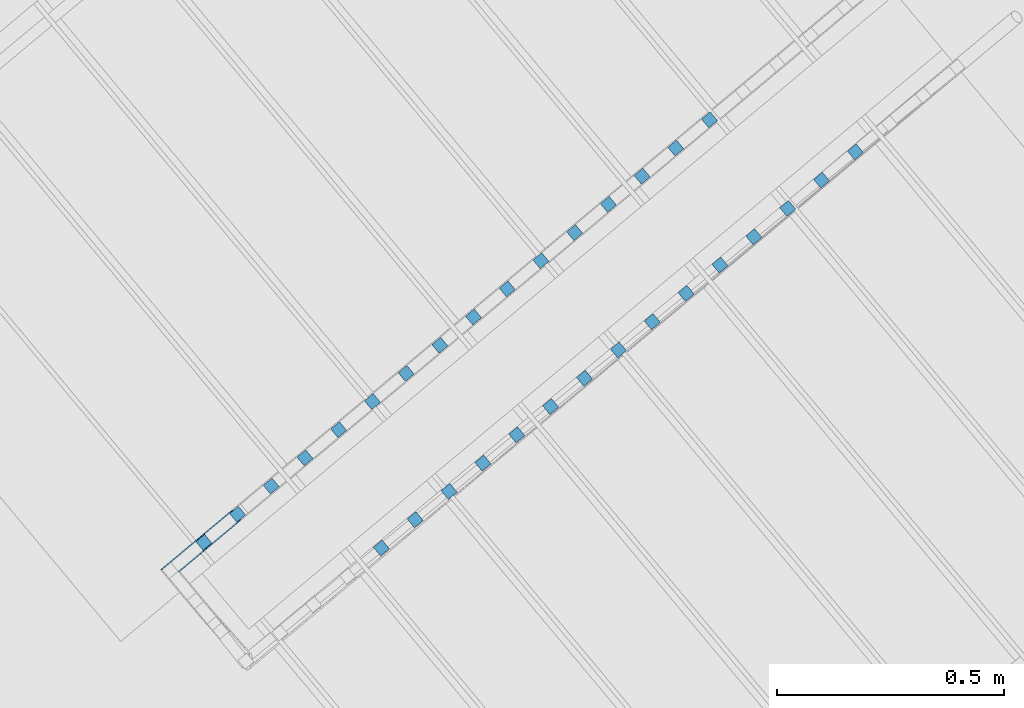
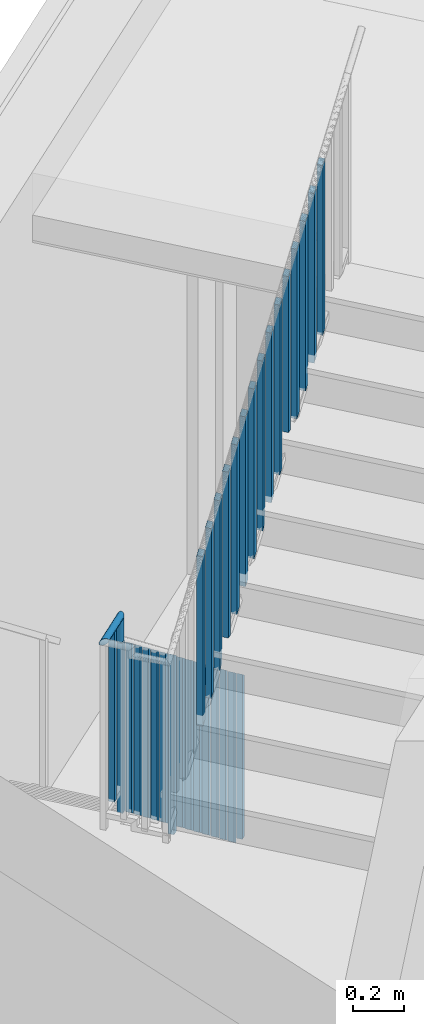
# One storey, part 15 of 17: 32 building element parts, 1 element without a shape of its own.
"""IFC4 building model written with IfcOpenShell, lengths in metres."""

from ifc_helpers import new_model, entity, si_unit, converted_unit, derived_unit, direction, frame, origin_with_axes, place, context, subcontext, project, spatial, polygons, material, type_object, element, aggregate, save


model = new_model("IFC4")

# Units and contexts
model_context = context("Model", 3, precision=1e-05, world=origin_with_axes(), true_north=direction((0.0, 1.0)))
body_context = subcontext(model_context, "Body", "Model", "MODEL_VIEW")
ifc_project = project(units=[si_unit("LENGTHUNIT", "METRE"), si_unit("AREAUNIT", "SQUARE_METRE"), si_unit("VOLUMEUNIT", "CUBIC_METRE"), converted_unit("PLANEANGLEUNIT", "DEGREE", entity("IfcPlaneAngleMeasure", 0.0174532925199), si_unit("PLANEANGLEUNIT", "RADIAN"), dimensions=[0, 0, 0, 0, 0, 0, 0]), converted_unit("TIMEUNIT", "Year", entity("IfcTimeMeasure", 31556926.0), si_unit("TIMEUNIT", "SECOND"), dimensions=[0, 0, 1, 0, 0, 0, 0]), si_unit("MASSUNIT", "GRAM", prefix="KILO"), si_unit("THERMODYNAMICTEMPERATUREUNIT", "DEGREE_CELSIUS"), si_unit("LUMINOUSINTENSITYUNIT", "LUMEN"), si_unit("ENERGYUNIT", "JOULE", prefix="MEGA"), derived_unit("THERMALCONDUCTANCEUNIT", [(si_unit("POWERUNIT", "WATT"), 1), (si_unit("LENGTHUNIT", "METRE"), -1), (si_unit("THERMODYNAMICTEMPERATUREUNIT", "KELVIN"), -1)]), derived_unit("SPECIFICHEATCAPACITYUNIT", [(si_unit("ENERGYUNIT", "JOULE"), 1), (si_unit("MASSUNIT", "GRAM", prefix="KILO"), -1), (si_unit("THERMODYNAMICTEMPERATUREUNIT", "KELVIN"), -1)]), derived_unit("MASSDENSITYUNIT", [(si_unit("MASSUNIT", "GRAM", prefix="KILO"), 1), (si_unit("VOLUMEUNIT", "CUBIC_METRE"), -1)])], contexts=[model_context])

# Site, building, storey
site_placement = place(None, frame((-0.00153261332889, -0.00661245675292, 0.0), z_axis=(0.0, 0.0, 1.0), x_axis=(1.0, 0.0, 0.0)))
site = spatial("IfcSite", under=ifc_project, at=site_placement, Name="Site", CompositionType="ELEMENT")
building_placement = place(site_placement, origin_with_axes())
building = spatial("IfcBuilding", under=site, at=building_placement, Name="Building", CompositionType="ELEMENT")
storey_placement = place(building_placement, frame((0.0, 0.0, -3.3), z_axis=(0.0, 0.0, 1.0), x_axis=(1.0, 0.0, 0.0)))
storey = spatial("IfcBuildingStorey", under=building, at=storey_placement, Name="UG1", CompositionType="ELEMENT", Elevation=-3.3)

# Railing, building element parts
railing_type = type_object("IfcRailingType", Name="Geländerart", PredefinedType="NOTDEFINED")
railing_placement = place(storey_placement, frame((-0.202679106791, 23.9992163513, 0.0), z_axis=(0.0, 0.0, 1.0), x_axis=(1.0, 0.0, 0.0)))
railing = element("IfcRailing", 1, at=railing_placement, inside=storey, type_object=railing_type, Name="Geländer - 001", PredefinedType="NOTDEFINED")
ifc_material = material(Name="BEKLEIDUNG")
building_element_part_1_placement = place(railing_placement, origin_with_axes())
building_element_part_1 = element("IfcBuildingElementPart", 2, at=building_element_part_1_placement, material=ifc_material, Name="BEKLEIDUNG", PredefinedType="NOTDEFINED", context=body_context, shape_type="Tessellation", body=[
    polygons([(-1.85741004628, -1.50627841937, 2.54264036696), (-1.85555729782, -1.50443347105, 2.54391411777), (-1.85555729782, -1.50443347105, 2.65427138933), (-1.85741004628, -1.50627841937, 2.65166666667), (-1.85955501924, -1.50777361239, 2.54136661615), (-1.86192704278, -1.50887361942, 2.54013156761), (-1.86445404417, -1.5095450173, 2.53897274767), (-1.86705924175, -1.50976740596, 2.53792536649), (-1.86966347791, -1.50953402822, 2.53702124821), (-1.87218762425, -1.50885197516, 2.53628786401), (-1.87455498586, -1.50774197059, 2.5357474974), (-1.87669363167, -1.50623774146, 2.53541656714), (-1.87853857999, -1.50438499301, 2.53530512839), (-1.880033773, -1.50224002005, 2.53541656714), (-1.88113378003, -1.49986799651, 2.5357474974), (-1.88180517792, -1.49734099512, 2.53628786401), (-1.88202756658, -1.49473579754, 2.53702124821), (-1.88179418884, -1.49213156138, 2.53792536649), (-1.88111213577, -1.48960741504, 2.53897274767), (-1.88000213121, -1.48724005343, 2.54013156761), (-1.87849790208, -1.48510140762, 2.54136661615), (-1.87664515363, -1.4832564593, 2.54264036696), (-1.87450018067, -1.48176126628, 2.54391411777), (-1.87212815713, -1.48066125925, 2.5451491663), (-1.86960115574, -1.47998986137, 2.54630798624), (-1.86699595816, -1.47976747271, 2.54735536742), (-1.864391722, -1.48000085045, 2.5482594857), (-1.86186757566, -1.48068290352, 2.5489928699), (-1.85950021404, -1.48179290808, 2.54953323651), (-1.85736156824, -1.48329713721, 2.54986416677), (-1.85551661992, -1.48514988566, 2.54997560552), (-1.8540214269, -1.48729485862, 2.54986416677), (-1.85292141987, -1.48966688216, 2.54953323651), (-1.85225002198, -1.49219388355, 2.5489928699), (-1.85202763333, -1.49479908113, 2.5482594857), (-1.85226101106, -1.49740331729, 2.54735536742), (-1.85294306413, -1.49992746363, 2.54630798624), (-1.8540530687, -1.50229482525, 2.5451491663), (-1.8540530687, -1.50229482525, 2.65679696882), (-1.98818822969, -1.61524811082, 2.65427138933), (-1.98786723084, -1.61527686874, 2.65166666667), (-1.85955501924, -1.50777361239, 2.649061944), (-1.86192704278, -1.50887361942, 2.64653636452), (-1.86445404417, -1.5095450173, 2.64416666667), (-1.86705924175, -1.50976740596, 2.64202485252), (-1.86966347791, -1.50953402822, 2.64017600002), (-1.87218762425, -1.50885197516, 2.63867628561), (-1.87455498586, -1.50774197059, 2.63757127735), (-1.87669363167, -1.50623774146, 2.63689455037), (-1.87853857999, -1.50438499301, 2.63666666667), (-1.880033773, -1.50224002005, 2.63689455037), (-1.88113378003, -1.49986799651, 2.63757127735), (-1.88180517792, -1.49734099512, 2.63867628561), (-1.88202756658, -1.49473579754, 2.64017600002), (-1.88179418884, -1.49213156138, 2.64202485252), (-1.88111213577, -1.48960741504, 2.64416666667), (-1.88000213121, -1.48724005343, 2.64653636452), (-1.87849790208, -1.48510140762, 2.649061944), (-1.87664515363, -1.4832564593, 2.65166666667), (-1.87450018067, -1.48176126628, 2.65427138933), (-1.87212815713, -1.48066125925, 2.65679696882), (-1.86960115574, -1.47998986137, 2.65916666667), (-1.86699595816, -1.47976747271, 2.66130848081), (-1.864391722, -1.48000085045, 2.66315733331), (-1.86186757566, -1.48068290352, 2.66465704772), (-1.85950021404, -1.48179290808, 2.66576205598), (-1.85736156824, -1.48329713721, 2.66643878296), (-1.85551661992, -1.48514988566, 2.66666666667), (-1.8540214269, -1.48729485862, 2.66643878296), (-1.85292141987, -1.48966688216, 2.66576205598), (-1.85225002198, -1.49219388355, 2.66465704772), (-1.85202763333, -1.49479908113, 2.66315733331), (-1.85226101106, -1.49740331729, 2.66130848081), (-1.85294306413, -1.49992746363, 2.65916666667), (-1.98914147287, -1.61516271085, 2.65679696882), (-1.99069799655, -1.61502326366, 2.65916666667), (-1.99281050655, -1.61483400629, 2.66130848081), (-1.99541481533, -1.61460068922, 2.66315733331), (-1.99843179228, -1.61433040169, 2.66465704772), (-2.00176976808, -1.61403135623, 2.66576205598), (-2.00532732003, -1.61371263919, 2.66643878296), (-2.00899635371, -1.61338393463, 2.66666666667), (-2.01266538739, -1.61305523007, 2.66643878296), (-2.01622293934, -1.61273651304, 2.66576205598), (-2.01956091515, -1.61243746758, 2.66465704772), (-2.0225778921, -1.61216718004, 2.66315733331), (-2.02518220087, -1.61193386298, 2.66130848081), (-2.02729471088, -1.61174460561, 2.65916666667), (-2.02885123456, -1.61160515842, 2.65679696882), (-2.02980447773, -1.61151975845, 2.65427138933), (-2.03012547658, -1.61149100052, 2.65166666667), (-2.02980447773, -1.61151975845, 2.649061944), (-2.02885123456, -1.61160515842, 2.64653636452), (-2.02729471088, -1.61174460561, 2.64416666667), (-2.02518220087, -1.61193386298, 2.64202485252), (-2.0225778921, -1.61216718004, 2.64017600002), (-2.01956091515, -1.61243746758, 2.63867628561), (-2.01622293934, -1.61273651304, 2.63757127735), (-2.01266538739, -1.61305523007, 2.63689455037), (-2.00899635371, -1.61338393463, 2.63666666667), (-2.00532732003, -1.61371263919, 2.63689455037), (-2.00176976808, -1.61403135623, 2.63757127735), (-1.99843179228, -1.61433040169, 2.63867628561), (-1.99541481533, -1.61460068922, 2.64017600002), (-1.99281050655, -1.61483400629, 2.64202485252), (-1.99069799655, -1.61502326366, 2.64416666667), (-1.98914147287, -1.61516271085, 2.64653636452), (-1.98818822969, -1.61524811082, 2.649061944)], [[[1, 2, 3, 4]], [[1, 5, 6, 7, 8, 9, 10, 11, 12, 13, 14, 15, 16, 17, 18, 19, 20, 21, 22, 23, 24, 25, 26, 27, 28, 29, 30, 31, 32, 33, 34, 35, 36, 37, 38, 2]], [[2, 38, 39, 3]], [[4, 3, 40, 41]], [[5, 1, 4, 42]], [[6, 5, 42, 43]], [[7, 6, 43, 44]], [[8, 7, 44, 45]], [[9, 8, 45, 46]], [[10, 9, 46, 47]], [[11, 10, 47, 48]], [[12, 11, 48, 49]], [[13, 12, 49, 50]], [[14, 13, 50, 51]], [[15, 14, 51, 52]], [[16, 15, 52, 53]], [[17, 16, 53, 54]], [[18, 17, 54, 55]], [[19, 18, 55, 56]], [[20, 19, 56, 57]], [[21, 20, 57, 58]], [[22, 21, 58, 59]], [[23, 22, 59, 60]], [[24, 23, 60, 61]], [[25, 24, 61, 62]], [[26, 25, 62, 63]], [[27, 26, 63, 64]], [[28, 27, 64, 65]], [[29, 28, 65, 66]], [[30, 29, 66, 67]], [[31, 30, 67, 68]], [[32, 31, 68, 69]], [[33, 32, 69, 70]], [[34, 33, 70, 71]], [[35, 34, 71, 72]], [[36, 35, 72, 73]], [[37, 36, 73, 74]], [[38, 37, 74, 39]], [[3, 39, 75, 40]], [[41, 40, 75, 76, 77, 78, 79, 80, 81, 82, 83, 84, 85, 86, 87, 88, 89, 90, 91, 92, 93, 94, 95, 96, 97, 98, 99, 100, 101, 102, 103, 104, 105, 106, 107, 108]], [[42, 4, 41, 108]], [[43, 42, 108, 107]], [[44, 43, 107, 106]], [[45, 44, 106, 105]], [[46, 45, 105, 104]], [[47, 46, 104, 103]], [[48, 47, 103, 102]], [[49, 48, 102, 101]], [[50, 49, 101, 100]], [[51, 50, 100, 99]], [[52, 51, 99, 98]], [[53, 52, 98, 97]], [[54, 53, 97, 96]], [[55, 54, 96, 95]], [[56, 55, 95, 94]], [[57, 56, 94, 93]], [[58, 57, 93, 92]], [[59, 58, 92, 91]], [[60, 59, 91, 90]], [[61, 60, 90, 89]], [[62, 61, 89, 88]], [[63, 62, 88, 87]], [[64, 63, 87, 86]], [[65, 64, 86, 85]], [[66, 65, 85, 84]], [[67, 66, 84, 83]], [[68, 67, 83, 82]], [[69, 68, 82, 81]], [[70, 69, 81, 80]], [[71, 70, 80, 79]], [[72, 71, 79, 78]], [[73, 72, 78, 77]], [[74, 73, 77, 76]], [[39, 74, 76, 75]]], closed=True),
])
building_element_part_2_placement = place(railing_placement, origin_with_axes())
building_element_part_2 = element("IfcBuildingElementPart", 3, at=building_element_part_2_placement, material=ifc_material, Name="BEKLEIDUNG", PredefinedType="NOTDEFINED", context=body_context, shape_type="Tessellation", body=[
    polygons([(-0.839224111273, -0.619737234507, 0.706666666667), (-0.823194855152, -0.638922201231, 0.706666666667), (-0.823194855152, -0.638922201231, 1.49157986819), (-0.839224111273, -0.619737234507, 1.49157986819), (-0.820039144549, -0.603707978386, 0.706666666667), (-0.804009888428, -0.62289294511, 0.706666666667), (-0.804009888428, -0.62289294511, 1.47213102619), (-0.820039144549, -0.603707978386, 1.47213102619)], [[[1, 2, 3, 4]], [[1, 5, 6, 2]], [[2, 6, 7, 3]], [[4, 3, 7, 8]], [[5, 1, 4, 8]], [[6, 5, 8, 7]]], closed=True),
])
building_element_part_3_placement = place(railing_placement, origin_with_axes())
building_element_part_3 = element("IfcBuildingElementPart", 4, at=building_element_part_3_placement, material=ifc_material, Name="BEKLEIDUNG", PredefinedType="NOTDEFINED", context=body_context, shape_type="Tessellation", body=[
    polygons([(-0.91343532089, -0.681741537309, 0.756811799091), (-0.897406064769, -0.700926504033, 0.756811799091), (-0.897406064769, -0.700926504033, 1.56431179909), (-0.91343532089, -0.681741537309, 1.56431179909), (-0.894250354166, -0.665712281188, 0.737362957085), (-0.878221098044, -0.684897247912, 0.737362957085), (-0.878221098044, -0.684897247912, 1.54486295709), (-0.894250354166, -0.665712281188, 1.54486295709)], [[[1, 2, 3, 4]], [[1, 5, 6, 2]], [[2, 6, 7, 3]], [[4, 3, 7, 8]], [[5, 1, 4, 8]], [[6, 5, 8, 7]]], closed=True),
])
building_element_part_4_placement = place(railing_placement, origin_with_axes())
building_element_part_4 = element("IfcBuildingElementPart", 5, at=building_element_part_4_placement, material=ifc_material, Name="BEKLEIDUNG", PredefinedType="NOTDEFINED", context=body_context, shape_type="Tessellation", body=[
    polygons([(-0.987646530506, -0.74374584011, 0.83204372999), (-0.971617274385, -0.762930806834, 0.83204372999), (-0.971617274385, -0.762930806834, 1.63954372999), (-0.987646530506, -0.74374584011, 1.63954372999), (-0.968461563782, -0.727716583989, 0.812594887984), (-0.952432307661, -0.746901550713, 0.812594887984), (-0.952432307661, -0.746901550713, 1.62009488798), (-0.968461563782, -0.727716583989, 1.62009488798)], [[[1, 2, 3, 4]], [[1, 5, 6, 2]], [[2, 6, 7, 3]], [[4, 3, 7, 8]], [[5, 1, 4, 8]], [[6, 5, 8, 7]]], closed=True),
])
building_element_part_5_placement = place(railing_placement, origin_with_axes())
building_element_part_5 = element("IfcBuildingElementPart", 6, at=building_element_part_5_placement, material=ifc_material, Name="BEKLEIDUNG", PredefinedType="NOTDEFINED", context=body_context, shape_type="Tessellation", body=[
    polygons([(-1.06185774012, -0.805750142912, 0.907275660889), (-1.045828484, -0.824935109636, 0.907275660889), (-1.045828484, -0.824935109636, 1.71477566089), (-1.06185774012, -0.805750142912, 1.71477566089), (-1.0426727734, -0.789720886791, 0.887826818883), (-1.02664351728, -0.808905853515, 0.887826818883), (-1.02664351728, -0.808905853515, 1.69532681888), (-1.0426727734, -0.789720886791, 1.69532681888)], [[[1, 2, 3, 4]], [[1, 5, 6, 2]], [[2, 6, 7, 3]], [[4, 3, 7, 8]], [[5, 1, 4, 8]], [[6, 5, 8, 7]]], closed=True),
])
building_element_part_6_placement = place(railing_placement, origin_with_axes())
building_element_part_6 = element("IfcBuildingElementPart", 7, at=building_element_part_6_placement, material=ifc_material, Name="BEKLEIDUNG", PredefinedType="NOTDEFINED", context=body_context, shape_type="Tessellation", body=[
    polygons([(-1.13606894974, -0.867754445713, 0.982507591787), (-1.12003969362, -0.886939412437, 0.982507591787), (-1.12003969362, -0.886939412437, 1.79000759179), (-1.13606894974, -0.867754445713, 1.79000759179), (-1.11688398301, -0.851725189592, 0.963058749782), (-1.10085472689, -0.870910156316, 0.963058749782), (-1.10085472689, -0.870910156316, 1.77055874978), (-1.11688398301, -0.851725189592, 1.77055874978)], [[[1, 2, 3, 4]], [[1, 5, 6, 2]], [[2, 6, 7, 3]], [[4, 3, 7, 8]], [[5, 1, 4, 8]], [[6, 5, 8, 7]]], closed=True),
])
building_element_part_7_placement = place(railing_placement, origin_with_axes())
building_element_part_7 = element("IfcBuildingElementPart", 8, at=building_element_part_7_placement, material=ifc_material, Name="BEKLEIDUNG", PredefinedType="NOTDEFINED", context=body_context, shape_type="Tessellation", body=[
    polygons([(-1.21028015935, -0.929758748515, 1.05773952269), (-1.19425090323, -0.948943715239, 1.05773952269), (-1.19425090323, -0.948943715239, 1.86523952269), (-1.21028015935, -0.929758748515, 1.86523952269), (-1.19109519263, -0.913729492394, 1.03829068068), (-1.17506593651, -0.932914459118, 1.03829068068), (-1.17506593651, -0.932914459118, 1.84579068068), (-1.19109519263, -0.913729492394, 1.84579068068)], [[[1, 2, 3, 4]], [[1, 5, 6, 2]], [[2, 6, 7, 3]], [[4, 3, 7, 8]], [[5, 1, 4, 8]], [[6, 5, 8, 7]]], closed=True),
])
building_element_part_8_placement = place(railing_placement, origin_with_axes())
building_element_part_8 = element("IfcBuildingElementPart", 9, at=building_element_part_8_placement, material=ifc_material, Name="BEKLEIDUNG", PredefinedType="NOTDEFINED", context=body_context, shape_type="Tessellation", body=[
    polygons([(-1.28449136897, -0.991763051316, 1.13297145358), (-1.26846211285, -1.01094801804, 1.13297145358), (-1.26846211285, -1.01094801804, 1.94047145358), (-1.28449136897, -0.991763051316, 1.94047145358), (-1.26530640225, -0.975733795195, 1.11352261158), (-1.24927714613, -0.994918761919, 1.11352261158), (-1.24927714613, -0.994918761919, 1.92102261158), (-1.26530640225, -0.975733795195, 1.92102261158)], [[[1, 2, 3, 4]], [[1, 5, 6, 2]], [[2, 6, 7, 3]], [[4, 3, 7, 8]], [[5, 1, 4, 8]], [[6, 5, 8, 7]]], closed=True),
])
building_element_part_9_placement = place(railing_placement, origin_with_axes())
building_element_part_9 = element("IfcBuildingElementPart", 10, at=building_element_part_9_placement, material=ifc_material, Name="BEKLEIDUNG", PredefinedType="NOTDEFINED", context=body_context, shape_type="Tessellation", body=[
    polygons([(-1.35870257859, -1.05376735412, 1.20820338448), (-1.34267332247, -1.07295232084, 1.20820338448), (-1.34267332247, -1.07295232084, 2.01570338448), (-1.35870257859, -1.05376735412, 2.01570338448), (-1.33951761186, -1.037738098, 1.18875454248), (-1.32348835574, -1.05692306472, 1.18875454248), (-1.32348835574, -1.05692306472, 1.99625454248), (-1.33951761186, -1.037738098, 1.99625454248)], [[[1, 2, 3, 4]], [[1, 5, 6, 2]], [[2, 6, 7, 3]], [[4, 3, 7, 8]], [[5, 1, 4, 8]], [[6, 5, 8, 7]]], closed=True),
])
building_element_part_10_placement = place(railing_placement, origin_with_axes())
building_element_part_10 = element("IfcBuildingElementPart", 11, at=building_element_part_10_placement, material=ifc_material, Name="BEKLEIDUNG", PredefinedType="NOTDEFINED", context=body_context, shape_type="Tessellation", body=[
    polygons([(-1.4329137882, -1.11577165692, 1.23666666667), (-1.41688453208, -1.13495662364, 1.23666666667), (-1.41688453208, -1.13495662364, 2.09343531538), (-1.4329137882, -1.11577165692, 2.09343531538), (-1.41372882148, -1.0997424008, 1.23666666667), (-1.39769956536, -1.11892736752, 1.23666666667), (-1.39769956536, -1.11892736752, 2.07398647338), (-1.41372882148, -1.0997424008, 2.07398647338)], [[[1, 2, 3, 4]], [[1, 5, 6, 2]], [[2, 6, 7, 3]], [[4, 3, 7, 8]], [[5, 1, 4, 8]], [[6, 5, 8, 7]]], closed=True),
])
building_element_part_11_placement = place(railing_placement, origin_with_axes())
building_element_part_11 = element("IfcBuildingElementPart", 12, at=building_element_part_11_placement, material=ifc_material, Name="BEKLEIDUNG", PredefinedType="NOTDEFINED", context=body_context, shape_type="Tessellation", body=[
    polygons([(-1.50712499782, -1.17777595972, 1.35866724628), (-1.4910957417, -1.19696092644, 1.35866724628), (-1.4910957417, -1.19696092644, 2.16616724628), (-1.50712499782, -1.17777595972, 2.16616724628), (-1.4879400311, -1.1617467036, 1.33921840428), (-1.47191077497, -1.18093167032, 1.33921840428), (-1.47191077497, -1.18093167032, 2.14671840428), (-1.4879400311, -1.1617467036, 2.14671840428)], [[[1, 2, 3, 4]], [[1, 5, 6, 2]], [[2, 6, 7, 3]], [[4, 3, 7, 8]], [[5, 1, 4, 8]], [[6, 5, 8, 7]]], closed=True),
])
building_element_part_12_placement = place(railing_placement, origin_with_axes())
building_element_part_12 = element("IfcBuildingElementPart", 13, at=building_element_part_12_placement, material=ifc_material, Name="BEKLEIDUNG", PredefinedType="NOTDEFINED", context=body_context, shape_type="Tessellation", body=[
    polygons([(-1.58133620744, -1.23978026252, 1.43389917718), (-1.56530695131, -1.25896522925, 1.43389917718), (-1.56530695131, -1.25896522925, 2.24139917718), (-1.58133620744, -1.23978026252, 2.24139917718), (-1.56215124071, -1.2237510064, 1.41445033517), (-1.54612198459, -1.24293597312, 1.41445033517), (-1.54612198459, -1.24293597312, 2.22195033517), (-1.56215124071, -1.2237510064, 2.22195033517)], [[[1, 2, 3, 4]], [[1, 5, 6, 2]], [[2, 6, 7, 3]], [[4, 3, 7, 8]], [[5, 1, 4, 8]], [[6, 5, 8, 7]]], closed=True),
])
building_element_part_13_placement = place(railing_placement, origin_with_axes())
building_element_part_13 = element("IfcBuildingElementPart", 14, at=building_element_part_13_placement, material=ifc_material, Name="BEKLEIDUNG", PredefinedType="NOTDEFINED", context=body_context, shape_type="Tessellation", body=[
    polygons([(-1.65554741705, -1.30178456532, 1.50913110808), (-1.63951816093, -1.32096953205, 1.50913110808), (-1.63951816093, -1.32096953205, 2.31663110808), (-1.65554741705, -1.30178456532, 2.31663110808), (-1.63636245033, -1.2857553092, 1.48968226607), (-1.62033319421, -1.30494027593, 1.48968226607), (-1.62033319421, -1.30494027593, 2.29718226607), (-1.63636245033, -1.2857553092, 2.29718226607)], [[[1, 2, 3, 4]], [[1, 5, 6, 2]], [[2, 6, 7, 3]], [[4, 3, 7, 8]], [[5, 1, 4, 8]], [[6, 5, 8, 7]]], closed=True),
])
building_element_part_14_placement = place(railing_placement, origin_with_axes())
building_element_part_14 = element("IfcBuildingElementPart", 15, at=building_element_part_14_placement, material=ifc_material, Name="BEKLEIDUNG", PredefinedType="NOTDEFINED", context=body_context, shape_type="Tessellation", body=[
    polygons([(-1.72975862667, -1.36378886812, 1.58436303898), (-1.71372937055, -1.38297383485, 1.58436303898), (-1.71372937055, -1.38297383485, 2.39186303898), (-1.72975862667, -1.36378886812, 2.39186303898), (-1.71057365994, -1.347759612, 1.56491419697), (-1.69454440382, -1.36694457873, 1.56491419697), (-1.69454440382, -1.36694457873, 2.37241419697), (-1.71057365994, -1.347759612, 2.37241419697)], [[[1, 2, 3, 4]], [[1, 5, 6, 2]], [[2, 6, 7, 3]], [[4, 3, 7, 8]], [[5, 1, 4, 8]], [[6, 5, 8, 7]]], closed=True),
])
building_element_part_15_placement = place(railing_placement, origin_with_axes())
building_element_part_15 = element("IfcBuildingElementPart", 16, at=building_element_part_15_placement, material=ifc_material, Name="BEKLEIDUNG", PredefinedType="NOTDEFINED", context=body_context, shape_type="Tessellation", body=[
    polygons([(-1.80396983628, -1.42579317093, 1.65959496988), (-1.78794058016, -1.44497813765, 1.65959496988), (-1.78794058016, -1.44497813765, 2.46709496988), (-1.80396983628, -1.42579317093, 2.46709496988), (-1.78478486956, -1.40976391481, 1.64014612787), (-1.76875561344, -1.42894888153, 1.64014612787), (-1.76875561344, -1.42894888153, 2.44764612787), (-1.78478486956, -1.40976391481, 2.44764612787)], [[[1, 2, 3, 4]], [[1, 5, 6, 2]], [[2, 6, 7, 3]], [[4, 3, 7, 8]], [[5, 1, 4, 8]], [[6, 5, 8, 7]]], closed=True),
])
building_element_part_16_placement = place(railing_placement, origin_with_axes())
building_element_part_16 = element("IfcBuildingElementPart", 17, at=building_element_part_16_placement, material=ifc_material, Name="BEKLEIDUNG", PredefinedType="NOTDEFINED", context=body_context, shape_type="Tessellation", body=[
    polygons([(-1.8781810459, -1.48779747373, 1.71997560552), (-1.86215178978, -1.50698244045, 1.71997560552), (-1.86215178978, -1.50698244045, 2.52747560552), (-1.8781810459, -1.48779747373, 2.52747560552), (-1.85899607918, -1.47176821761, 1.71997560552), (-1.84296682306, -1.49095318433, 1.71997560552), (-1.84296682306, -1.49095318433, 2.52747560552), (-1.85899607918, -1.47176821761, 2.52747560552)], [[[1, 2, 3, 4]], [[1, 5, 6, 2]], [[2, 6, 7, 3]], [[4, 3, 7, 8]], [[5, 1, 4, 8]], [[6, 5, 8, 7]]], closed=True),
])
building_element_part_17_placement = place(railing_placement, origin_with_axes())
building_element_part_17 = element("IfcBuildingElementPart", 18, at=building_element_part_17_placement, material=ifc_material, Name="BEKLEIDUNG", PredefinedType="NOTDEFINED", context=body_context, shape_type="Tessellation", body=[
    polygons([(-1.95239225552, -1.54980177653, 1.83666666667), (-1.9363629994, -1.56898674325, 1.83666666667), (-1.9363629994, -1.56898674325, 2.64416666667), (-1.95239225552, -1.54980177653, 2.64416666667), (-1.93320728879, -1.53377252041, 1.83666666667), (-1.91717803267, -1.55295748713, 1.83666666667), (-1.91717803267, -1.55295748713, 2.64416666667), (-1.93320728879, -1.53377252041, 2.64416666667)], [[[1, 2, 3, 4]], [[1, 5, 6, 2]], [[2, 6, 7, 3]], [[4, 3, 7, 8]], [[5, 1, 4, 8]], [[6, 5, 8, 7]]], closed=True),
])
building_element_part_18_placement = place(railing_placement, origin_with_axes())
building_element_part_18 = element("IfcBuildingElementPart", 19, at=building_element_part_18_placement, material=ifc_material, Name="BEKLEIDUNG", PredefinedType="NOTDEFINED", context=body_context, shape_type="Tessellation", body=[
    polygons([(-1.5265154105, -1.56527642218, 2.08600461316), (-1.54254564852, -1.54609227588, 2.08600461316), (-1.54254564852, -1.54609227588, 2.89350461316), (-1.5265154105, -1.56527642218, 2.89350461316), (-1.5456995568, -1.58130666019, 2.06824987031), (-1.56172979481, -1.56212251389, 2.06824987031), (-1.56172979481, -1.56212251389, 2.87574987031), (-1.5456995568, -1.58130666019, 2.87574987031)], [[[1, 2, 3, 4]], [[1, 5, 6, 2]], [[2, 6, 7, 3]], [[4, 3, 7, 8]], [[5, 1, 4, 8]], [[6, 5, 8, 7]]], closed=True),
])
building_element_part_19_placement = place(railing_placement, origin_with_axes())
building_element_part_19 = element("IfcBuildingElementPart", 20, at=building_element_part_19_placement, material=ifc_material, Name="BEKLEIDUNG", PredefinedType="NOTDEFINED", context=body_context, shape_type="Tessellation", body=[
    polygons([(-1.45196842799, -1.50298509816, 2.15499712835), (-1.467998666, -1.48380095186, 2.15499712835), (-1.467998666, -1.48380095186, 2.96249712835), (-1.45196842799, -1.50298509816, 2.96249712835), (-1.47115257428, -1.51901533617, 2.1372423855), (-1.4871828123, -1.49983118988, 2.1372423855), (-1.4871828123, -1.49983118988, 2.9447423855), (-1.47115257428, -1.51901533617, 2.9447423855)], [[[1, 2, 3, 4]], [[1, 5, 6, 2]], [[2, 6, 7, 3]], [[4, 3, 7, 8]], [[5, 1, 4, 8]], [[6, 5, 8, 7]]], closed=True),
])
building_element_part_20_placement = place(railing_placement, origin_with_axes())
building_element_part_20 = element("IfcBuildingElementPart", 21, at=building_element_part_20_placement, material=ifc_material, Name="BEKLEIDUNG", PredefinedType="NOTDEFINED", context=body_context, shape_type="Tessellation", body=[
    polygons([(-1.37742144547, -1.44069377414, 2.22398964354), (-1.39345168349, -1.42150962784, 2.22398964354), (-1.39345168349, -1.42150962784, 3.03148964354), (-1.37742144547, -1.44069377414, 3.03148964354), (-1.39660559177, -1.45672401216, 2.20623490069), (-1.41263582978, -1.43753986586, 2.20623490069), (-1.41263582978, -1.43753986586, 3.01373490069), (-1.39660559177, -1.45672401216, 3.01373490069)], [[[1, 2, 3, 4]], [[1, 5, 6, 2]], [[2, 6, 7, 3]], [[4, 3, 7, 8]], [[5, 1, 4, 8]], [[6, 5, 8, 7]]], closed=True),
])
building_element_part_21_placement = place(railing_placement, origin_with_axes())
building_element_part_21 = element("IfcBuildingElementPart", 22, at=building_element_part_21_placement, material=ifc_material, Name="BEKLEIDUNG", PredefinedType="NOTDEFINED", context=body_context, shape_type="Tessellation", body=[
    polygons([(-1.30287446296, -1.37840245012, 2.29666666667), (-1.31890470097, -1.35921830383, 2.29666666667), (-1.31890470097, -1.35921830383, 3.10298215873), (-1.30287446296, -1.37840245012, 3.10298215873), (-1.32205860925, -1.39443268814, 2.29666666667), (-1.33808884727, -1.37524854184, 2.29666666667), (-1.33808884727, -1.37524854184, 3.08522741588), (-1.32205860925, -1.39443268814, 3.08522741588)], [[[1, 2, 3, 4]], [[1, 5, 6, 2]], [[2, 6, 7, 3]], [[4, 3, 7, 8]], [[5, 1, 4, 8]], [[6, 5, 8, 7]]], closed=True),
])
building_element_part_22_placement = place(railing_placement, origin_with_axes())
building_element_part_22 = element("IfcBuildingElementPart", 23, at=building_element_part_22_placement, material=ifc_material, Name="BEKLEIDUNG", PredefinedType="NOTDEFINED", context=body_context, shape_type="Tessellation", body=[
    polygons([(-1.22832748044, -1.31611112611, 2.36197467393), (-1.24435771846, -1.29692697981, 2.36197467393), (-1.24435771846, -1.29692697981, 3.16947467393), (-1.22832748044, -1.31611112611, 3.16947467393), (-1.24751162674, -1.33214136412, 2.34421993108), (-1.26354186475, -1.31295721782, 2.34421993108), (-1.26354186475, -1.31295721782, 3.15171993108), (-1.24751162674, -1.33214136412, 3.15171993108)], [[[1, 2, 3, 4]], [[1, 5, 6, 2]], [[2, 6, 7, 3]], [[4, 3, 7, 8]], [[5, 1, 4, 8]], [[6, 5, 8, 7]]], closed=True),
])
building_element_part_23_placement = place(railing_placement, origin_with_axes())
building_element_part_23 = element("IfcBuildingElementPart", 24, at=building_element_part_23_placement, material=ifc_material, Name="BEKLEIDUNG", PredefinedType="NOTDEFINED", context=body_context, shape_type="Tessellation", body=[
    polygons([(-1.15378049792, -1.25381980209, 2.43096718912), (-1.16981073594, -1.23463565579, 2.43096718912), (-1.16981073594, -1.23463565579, 3.23846718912), (-1.15378049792, -1.25381980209, 3.23846718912), (-1.17296464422, -1.26985004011, 2.41321244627), (-1.18899488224, -1.25066589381, 2.41321244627), (-1.18899488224, -1.25066589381, 3.22071244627), (-1.17296464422, -1.26985004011, 3.22071244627)], [[[1, 2, 3, 4]], [[1, 5, 6, 2]], [[2, 6, 7, 3]], [[4, 3, 7, 8]], [[5, 1, 4, 8]], [[6, 5, 8, 7]]], closed=True),
])
building_element_part_24_placement = place(railing_placement, origin_with_axes())
building_element_part_24 = element("IfcBuildingElementPart", 25, at=building_element_part_24_placement, material=ifc_material, Name="BEKLEIDUNG", PredefinedType="NOTDEFINED", context=body_context, shape_type="Tessellation", body=[
    polygons([(-1.07923351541, -1.19152847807, 2.49995970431), (-1.09526375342, -1.17234433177, 2.49995970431), (-1.09526375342, -1.17234433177, 3.30745970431), (-1.07923351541, -1.19152847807, 3.30745970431), (-1.09841766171, -1.20755871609, 2.48220496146), (-1.11444789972, -1.18837456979, 2.48220496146), (-1.11444789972, -1.18837456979, 3.28970496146), (-1.09841766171, -1.20755871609, 3.28970496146)], [[[1, 2, 3, 4]], [[1, 5, 6, 2]], [[2, 6, 7, 3]], [[4, 3, 7, 8]], [[5, 1, 4, 8]], [[6, 5, 8, 7]]], closed=True),
])
building_element_part_25_placement = place(railing_placement, origin_with_axes())
building_element_part_25 = element("IfcBuildingElementPart", 26, at=building_element_part_25_placement, material=ifc_material, Name="BEKLEIDUNG", PredefinedType="NOTDEFINED", context=body_context, shape_type="Tessellation", body=[
    polygons([(-1.00468653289, -1.12923715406, 2.5689522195), (-1.02071677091, -1.11005300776, 2.5689522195), (-1.02071677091, -1.11005300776, 3.3764522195), (-1.00468653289, -1.12923715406, 3.3764522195), (-1.02387067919, -1.14526739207, 2.55119747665), (-1.03990091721, -1.12608324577, 2.55119747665), (-1.03990091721, -1.12608324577, 3.35869747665), (-1.02387067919, -1.14526739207, 3.35869747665)], [[[1, 2, 3, 4]], [[1, 5, 6, 2]], [[2, 6, 7, 3]], [[4, 3, 7, 8]], [[5, 1, 4, 8]], [[6, 5, 8, 7]]], closed=True),
])
building_element_part_26_placement = place(railing_placement, origin_with_axes())
building_element_part_26 = element("IfcBuildingElementPart", 27, at=building_element_part_26_placement, material=ifc_material, Name="BEKLEIDUNG", PredefinedType="NOTDEFINED", context=body_context, shape_type="Tessellation", body=[
    polygons([(-0.930139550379, -1.06694583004, 2.6379447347), (-0.946169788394, -1.04776168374, 2.6379447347), (-0.946169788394, -1.04776168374, 3.4454447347), (-0.930139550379, -1.06694583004, 3.4454447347), (-0.949323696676, -1.08297606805, 2.62018999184), (-0.965353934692, -1.06379192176, 2.62018999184), (-0.965353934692, -1.06379192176, 3.42768999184), (-0.949323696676, -1.08297606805, 3.42768999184)], [[[1, 2, 3, 4]], [[1, 5, 6, 2]], [[2, 6, 7, 3]], [[4, 3, 7, 8]], [[5, 1, 4, 8]], [[6, 5, 8, 7]]], closed=True),
])
building_element_part_27_placement = place(railing_placement, origin_with_axes())
building_element_part_27 = element("IfcBuildingElementPart", 28, at=building_element_part_27_placement, material=ifc_material, Name="BEKLEIDUNG", PredefinedType="NOTDEFINED", context=body_context, shape_type="Tessellation", body=[
    polygons([(-0.855592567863, -1.00465450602, 2.70693724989), (-0.871622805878, -0.985470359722, 2.70693724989), (-0.871622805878, -0.985470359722, 3.51443724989), (-0.855592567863, -1.00465450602, 3.51443724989), (-0.874776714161, -1.02068474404, 2.68918250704), (-0.890806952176, -1.00150059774, 2.68918250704), (-0.890806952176, -1.00150059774, 3.49668250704), (-0.874776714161, -1.02068474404, 3.49668250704)], [[[1, 2, 3, 4]], [[1, 5, 6, 2]], [[2, 6, 7, 3]], [[4, 3, 7, 8]], [[5, 1, 4, 8]], [[6, 5, 8, 7]]], closed=True),
])
building_element_part_28_placement = place(railing_placement, origin_with_axes())
building_element_part_28 = element("IfcBuildingElementPart", 29, at=building_element_part_28_placement, material=ifc_material, Name="BEKLEIDUNG", PredefinedType="NOTDEFINED", context=body_context, shape_type="Tessellation", body=[
    polygons([(-0.781045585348, -0.942363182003, 2.82666666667), (-0.797075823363, -0.923179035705, 2.82666666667), (-0.797075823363, -0.923179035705, 3.58592976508), (-0.781045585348, -0.942363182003, 3.58592976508), (-0.800229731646, -0.958393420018, 2.82666666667), (-0.816259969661, -0.93920927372, 2.82666666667), (-0.816259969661, -0.93920927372, 3.56817502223), (-0.800229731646, -0.958393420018, 3.56817502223)], [[[1, 2, 3, 4]], [[1, 5, 6, 2]], [[2, 6, 7, 3]], [[4, 3, 7, 8]], [[5, 1, 4, 8]], [[6, 5, 8, 7]]], closed=True),
])
building_element_part_29_placement = place(railing_placement, origin_with_axes())
building_element_part_29 = element("IfcBuildingElementPart", 30, at=building_element_part_29_placement, material=ifc_material, Name="BEKLEIDUNG", PredefinedType="NOTDEFINED", context=body_context, shape_type="Tessellation", body=[
    polygons([(-0.706498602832, -0.880071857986, 2.84492228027), (-0.722528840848, -0.860887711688, 2.84492228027), (-0.722528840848, -0.860887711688, 3.65242228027), (-0.706498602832, -0.880071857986, 3.65242228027), (-0.72568274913, -0.896102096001, 2.82716753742), (-0.741712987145, -0.876917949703, 2.82716753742), (-0.741712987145, -0.876917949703, 3.63466753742), (-0.72568274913, -0.896102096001, 3.63466753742)], [[[1, 2, 3, 4]], [[1, 5, 6, 2]], [[2, 6, 7, 3]], [[4, 3, 7, 8]], [[5, 1, 4, 8]], [[6, 5, 8, 7]]], closed=True),
])
building_element_part_30_placement = place(railing_placement, origin_with_axes())
building_element_part_30 = element("IfcBuildingElementPart", 31, at=building_element_part_30_placement, material=ifc_material, Name="BEKLEIDUNG", PredefinedType="NOTDEFINED", context=body_context, shape_type="Tessellation", body=[
    polygons([(-0.631951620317, -0.817780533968, 2.91391479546), (-0.647981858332, -0.79859638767, 2.91391479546), (-0.647981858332, -0.79859638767, 3.72141479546), (-0.631951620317, -0.817780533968, 3.72141479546), (-0.651135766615, -0.833810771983, 2.89616005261), (-0.66716600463, -0.814626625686, 2.89616005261), (-0.66716600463, -0.814626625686, 3.70366005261), (-0.651135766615, -0.833810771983, 3.70366005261)], [[[1, 2, 3, 4]], [[1, 5, 6, 2]], [[2, 6, 7, 3]], [[4, 3, 7, 8]], [[5, 1, 4, 8]], [[6, 5, 8, 7]]], closed=True),
])
building_element_part_31_placement = place(railing_placement, origin_with_axes())
building_element_part_31 = element("IfcBuildingElementPart", 32, at=building_element_part_31_placement, material=ifc_material, Name="BEKLEIDUNG", PredefinedType="NOTDEFINED", context=body_context, shape_type="Tessellation", body=[
    polygons([(-0.557404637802, -0.755489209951, 2.98290731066), (-0.573434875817, -0.736305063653, 2.98290731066), (-0.573434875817, -0.736305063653, 3.79040731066), (-0.557404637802, -0.755489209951, 3.79040731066), (-0.5765887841, -0.771519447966, 2.96515256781), (-0.592619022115, -0.752335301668, 2.96515256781), (-0.592619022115, -0.752335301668, 3.77265256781), (-0.5765887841, -0.771519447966, 3.77265256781)], [[[1, 2, 3, 4]], [[1, 5, 6, 2]], [[2, 6, 7, 3]], [[4, 3, 7, 8]], [[5, 1, 4, 8]], [[6, 5, 8, 7]]], closed=True),
])
building_element_part_32_placement = place(railing_placement, origin_with_axes())
building_element_part_32 = element("IfcBuildingElementPart", 33, at=building_element_part_32_placement, material=ifc_material, Name="BEKLEIDUNG", PredefinedType="NOTDEFINED", context=body_context, shape_type="Tessellation", body=[
    polygons([(-0.482857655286, -0.693197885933, 3.05189982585), (-0.498887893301, -0.674013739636, 3.05189982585), (-0.498887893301, -0.674013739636, 3.85939982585), (-0.482857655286, -0.693197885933, 3.85939982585), (-0.502041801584, -0.709228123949, 3.034145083), (-0.518072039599, -0.690043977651, 3.034145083), (-0.518072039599, -0.690043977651, 3.841645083), (-0.502041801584, -0.709228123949, 3.841645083)], [[[1, 2, 3, 4]], [[1, 5, 6, 2]], [[2, 6, 7, 3]], [[4, 3, 7, 8]], [[5, 1, 4, 8]], [[6, 5, 8, 7]]], closed=True),
])
aggregate(railing, [building_element_part_1, building_element_part_2, building_element_part_3, building_element_part_4, building_element_part_5, building_element_part_6, building_element_part_7, building_element_part_8, building_element_part_9, building_element_part_10, building_element_part_11, building_element_part_12, building_element_part_13, building_element_part_14, building_element_part_15, building_element_part_16, building_element_part_17, building_element_part_18, building_element_part_19, building_element_part_20, building_element_part_21, building_element_part_22, building_element_part_23, building_element_part_24, building_element_part_25, building_element_part_26, building_element_part_27, building_element_part_28, building_element_part_29, building_element_part_30, building_element_part_31, building_element_part_32])

save(model, "model.ifc")
